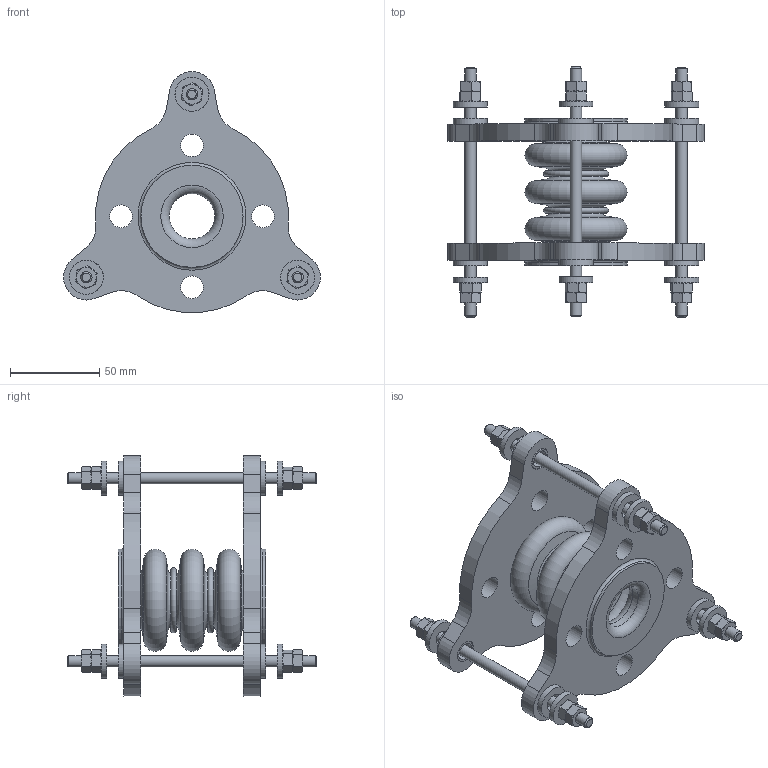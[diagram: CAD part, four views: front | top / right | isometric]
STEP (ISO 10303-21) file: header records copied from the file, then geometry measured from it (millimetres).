
FILE_DESCRIPTION(/* description */ (''),/* implementation_level */ '2;1');
FILE_NAME(/* name */ 'C:\Users\rramoutar\Desktop\803\803 1IDx3.25FF.stp',/* time_stamp */ '2016-04-24T17:45:54-04:00',/* author */ ('rramoutar'),/* organization */ ('Mason Industries Inc.'),/* preprocessor_version */ 'ST-DEVELOPER v15.6',/* originating_system */ 'Autodesk Inventor 2015',/* authorisation */ '');
FILE_SCHEMA (('CONFIG_CONTROL_DESIGN'));
Length unit declared in the file: inch
Products named in the file (1): 803 1IDx3.25FF
Bounding box: 143.63 x 139.7 x 134.74 mm (x, y, z)
Volume: 251802.3 mm3; surface area: 113445 mm2
Topology: 6 solids, 12 shells, 443 faces, 972 edges, 585 vertices
Faces by surface type: cone 186, plane 140, cylinder 91, torus 26
Full cylindrical faces by diameter (mm): 6.35 x15, 7.938 x6, 9.922 x6, 12.303 x6, 12.7 x14, 19.05 x12, 25.4 x2, 28.575 x2, 30.162 x2, 57.15 x2
Entity records: 11075 total; most frequent: CARTESIAN_POINT 2382, DIRECTION 1796, ORIENTED_EDGE 1616, AXIS2_PLACEMENT_3D 832, EDGE_CURVE 808, EDGE_LOOP 654, VERTEX_POINT 554, FACE_OUTER_BOUND 443
